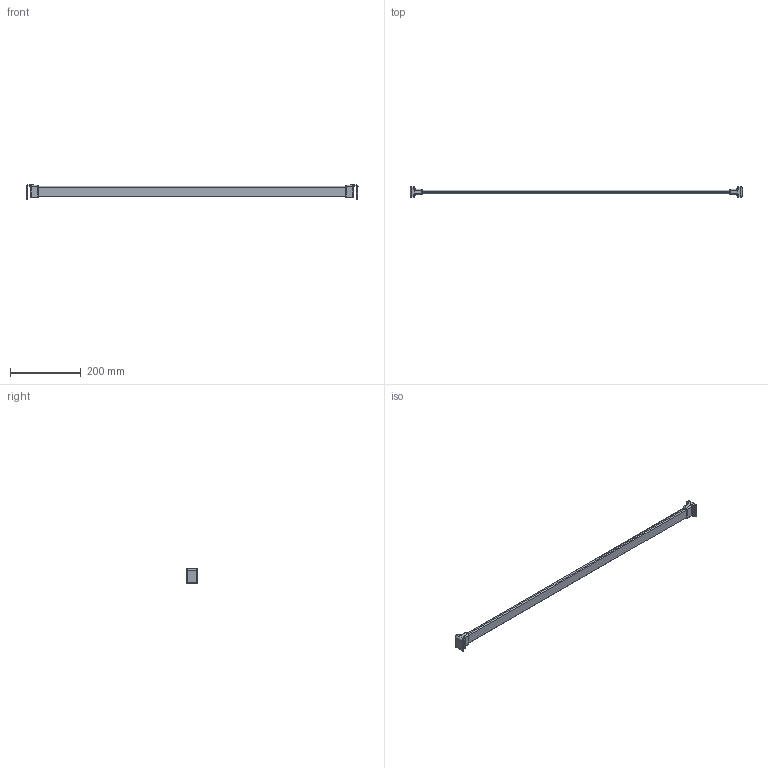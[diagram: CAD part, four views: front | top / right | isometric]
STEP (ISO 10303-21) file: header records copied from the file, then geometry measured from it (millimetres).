
FILE_DESCRIPTION (( 'STEP AP214' ), '1' );
FILE_NAME ('_Querreling_KAB-1000_KS-16_P602_Glashalter.step', '2010-08-26T14:59:39', ( 'grass' ), ( '' ), 'SwSTEP 2.0', 'SolidWorks 2009', '' );
FILE_SCHEMA (( 'AUTOMOTIVE_DESIGN' ));
Length unit declared in the file: millimetre
Products named in the file (1): _Querreling_KAB-1000_KS-16_P602_Glashalter
Bounding box: 940.78 x 30 x 41.5 mm (x, y, z)
Volume: 305378.8 mm3; surface area: 81505.8 mm2
Topology: 1 solids, 1 shells, 124 faces, 300 edges, 176 vertices
Faces by surface type: cylinder 58, plane 34, torus 16, bspline 12, sphere 4
Entity records: 5090 total; most frequent: CARTESIAN_POINT 2269, ORIENTED_EDGE 592, DIRECTION 590, EDGE_CURVE 296, AXIS2_PLACEMENT_3D 225, VERTEX_POINT 176, LINE 140, VECTOR 140
